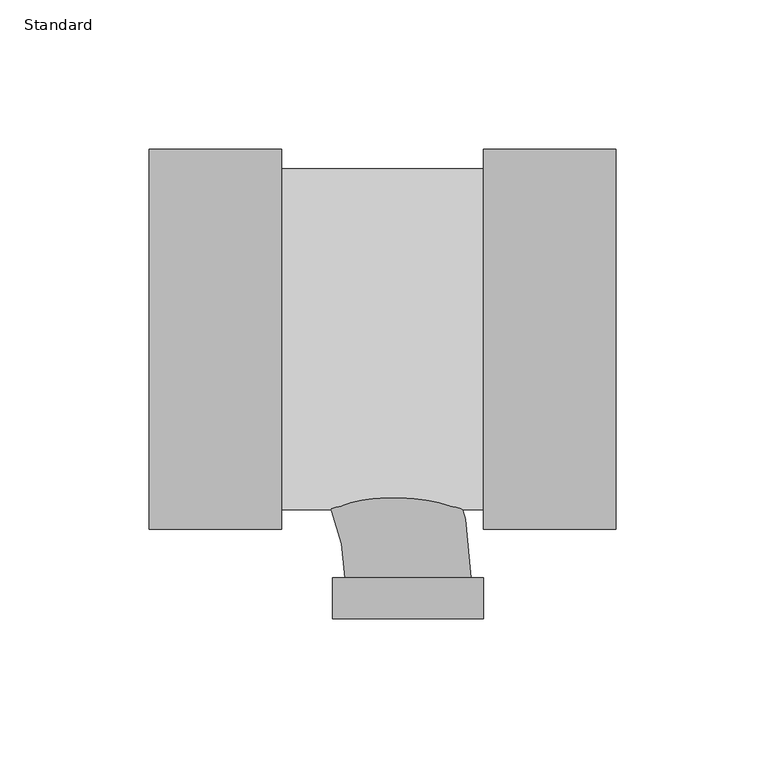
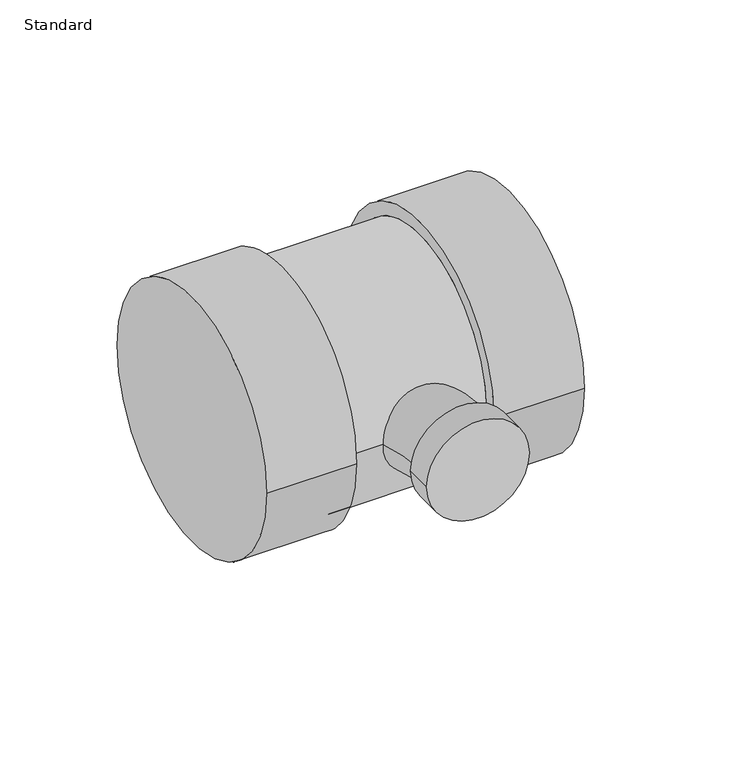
"""IFC4 building model written with IfcOpenShell, lengths in millimetres: pipe fitting geometry, EG-RCAN Té sanitaire de réduction - PVC - Nom. 40 - DWV : Standard."""

from ifc_helpers import new_model, si_unit, point, frame, origin, place, context, project, spatial, circle_curve, ellipse_curve, trimmed, source, transform, mapped, element, save
from ifc_brep_helpers import plane_surface, cylinder_surface, revolved_surface, advanced_brep


def standard_e98945bd(model_context):
    return source(origin(), model_context, "Body", "AdvancedBrep", [
        advanced_brep(
        [(25.265279, -63.754, 0.0), (25.265279, 63.754, 0.0), (25.265279, -57.15, 0.0), (25.265279, 57.15, 0.0), (69.715279, -63.754, 0.0), (69.715279, 63.754, 0.0), (-42.4599062, 57.15, 0.0), (-42.4599062, -57.15, 0.0), (-86.9099063, -63.754, 0.0), (-86.9099062, 63.754, 0.0), (-42.4599063, -63.754, 0.0), (-42.4599062, 63.754, 0.0)],
        [
            (0, 1, circle_curve(frame((25.265279, 0.0, 0.0), z_axis=(-1.0, 0.0, 0.0), x_axis=(0.0, 1.0, 0.0)), 63.754)),
            (1, 0, circle_curve(frame((25.265279, 0.0, 0.0), z_axis=(-1.0, 0.0, 0.0), x_axis=(0.0, 1.0, 0.0)), 63.754)),
            (2, 3, circle_curve(frame((25.265279, 0.0, 0.0), z_axis=(1.0, 0.0, 0.0), x_axis=(0.0, 0.0, -1.0)), 57.15)),
            (3, 2, circle_curve(frame((25.265279, 0.0, 0.0), z_axis=(1.0, 0.0, 0.0), x_axis=(0.0, 0.0, 1.0)), 57.15)),
            (4, 5, circle_curve(frame((69.715279, 0.0, 0.0), z_axis=(1.0, 0.0, 0.0), x_axis=(0.0, 1.0, 0.0)), 63.754)),
            (5, 4, circle_curve(frame((69.715279, 0.0, 0.0), z_axis=(1.0, 0.0, 0.0), x_axis=(0.0, 1.0, 0.0)), 63.754)),
            (0, 4),
            (5, 1),
            (6, 3),
            (2, 7),
            (7, 6, circle_curve(frame((-42.4599063, 0.0, 0.0), z_axis=(1.0, 0.0, 0.0), x_axis=(0.0, 0.0, -1.0)), 57.15)),
            (6, 7, circle_curve(frame((-42.4599062, 0.0, 0.0), z_axis=(1.0, 0.0, 0.0), x_axis=(0.0, 0.0, 1.0)), 57.15)),
            (8, 9, circle_curve(frame((-86.9099062, 0.0, 0.0), z_axis=(-1.0, 0.0, 0.0), x_axis=(0.0, 1.0, 0.0)), 63.754)),
            (9, 8, circle_curve(frame((-86.9099062, 0.0, 0.0), z_axis=(-1.0, 0.0, 0.0), x_axis=(0.0, 1.0, 0.0)), 63.754)),
            (10, 11, circle_curve(frame((-42.4599062, 0.0, 0.0), z_axis=(1.0, 0.0, 0.0), x_axis=(0.0, 1.0, 0.0)), 63.754)),
            (11, 10, circle_curve(frame((-42.4599062, 0.0, 0.0), z_axis=(1.0, 0.0, 0.0), x_axis=(0.0, 1.0, 0.0)), 63.754)),
            (8, 10),
            (11, 9),
        ],
        [
            plane_surface(frame((25.265279, 0.0, 0.0), z_axis=(-1.0, 0.0, 0.0), x_axis=(0.0, 0.0, 1.0))),
            plane_surface(frame((69.715279, 0.0, 0.0), z_axis=(1.0, 0.0, 0.0), x_axis=(0.0, 0.0, 1.0))),
            cylinder_surface(frame((25.265279, 0.0, 0.0), z_axis=(-1.0, 0.0, 0.0), x_axis=(0.0, 1.0, 0.0)), 63.754),
            cylinder_surface(frame((-42.4599062, 0.0, 0.0), z_axis=(1.0, 0.0, 0.0), x_axis=(0.0, 0.0, -1.0)), 57.15),
            cylinder_surface(frame((-42.4599062, 0.0, 0.0), z_axis=(1.0, 0.0, 0.0), x_axis=(0.0, 0.0, 1.0)), 57.15),
            plane_surface(frame((-86.9099062, 0.0, 0.0), z_axis=(-1.0, 0.0, 0.0), x_axis=(0.0, 0.0, 1.0))),
            plane_surface(frame((-42.4599062, 0.0, 0.0), z_axis=(1.0, 0.0, 0.0), x_axis=(0.0, 0.0, 1.0))),
            cylinder_surface(frame((-86.9099062, 0.0, 0.0), z_axis=(-1.0, 0.0, 0.0), x_axis=(0.0, 1.0, 0.0)), 63.754),
        ],
        [
            (0, [[1, 2], [3, 4]]),
            (1, [[5, 6]]),
            (2, [[-1, 7, -6, 8]]),
            (2, [[-2, -8, -5, -7]]),
            (3, [[9, -3, 10, 11]]),
            (4, [[-9, 12, -10, -4]]),
            (5, [[13, 14]]),
            (6, [[15, 16], [-11, -12]]),
            (7, [[-13, 17, -16, 18]]),
            (7, [[-14, -18, -15, -17]]),
        ],
    ),
        advanced_brep(
        [(-25.2689397, -80.0270783, 0.0), (25.265279, -80.0282341, 0.0), (21.2022321, -80.0281412, 0.0), (-21.2058929, -80.0271713, 0.0), (-25.269254, -93.7673908, 0.0), (25.2649647, -93.7685466, 0.0), (-80.0276562, -21.2040625, 0.0), (-80.0276562, 21.2040625, 0.0)],
        [
            (0, 1, circle_curve(frame((-0.0018304, -80.0276562, 0.0), z_axis=(2.2871702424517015e-05, 0.9999999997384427, 0.0), x_axis=(0.9999999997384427, -2.2871702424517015e-05, 0.0)), 25.2671094)),
            (1, 0, circle_curve(frame((-0.0018304, -80.0276562, 0.0), z_axis=(2.2871702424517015e-05, 0.9999999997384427, 0.0), x_axis=(0.9999999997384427, -2.2871702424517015e-05, 0.0)), 25.2671094)),
            (2, 3, circle_curve(frame((-0.0018304, -80.0276562, 0.0), z_axis=(-2.2871702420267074e-05, -0.9999999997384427, 0.0), x_axis=(0.9999999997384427, -2.2871702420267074e-05, 0.0)), 21.2040625)),
            (3, 2, circle_curve(frame((-0.0018304, -80.0276562, 0.0), z_axis=(-2.2871702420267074e-05, -0.9999999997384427, 0.0), x_axis=(0.9999999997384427, -2.2871702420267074e-05, 0.0)), 21.2040625)),
            (4, 5, circle_curve(frame((-0.0021446, -93.7679687, 0.0), z_axis=(-2.2871702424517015e-05, -0.9999999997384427, 0.0), x_axis=(0.9999999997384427, -2.2871702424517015e-05, 0.0)), 25.2671094)),
            (5, 4, circle_curve(frame((-0.0021446, -93.7679687, 0.0), z_axis=(-2.2871702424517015e-05, -0.9999999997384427, 0.0), x_axis=(0.9999999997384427, -2.2871702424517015e-05, 0.0)), 25.2671094)),
            (0, 4),
            (5, 1),
            (6, 7, circle_curve(frame((-80.0276562, 0.0, 0.0), z_axis=(-1.0, 0.0, 0.0), x_axis=(0.0, 1.0, 0.0)), 21.2040625)),
            (7, 6, circle_curve(frame((-80.0276562, 0.0, 0.0), z_axis=(-1.0, 0.0, 0.0), x_axis=(0.0, 1.0, 0.0)), 21.2040625)),
            (6, 3, circle_curve(frame((-80.0276562, -80.0258259, 0.0), z_axis=(0.0, 0.0, -1.0), x_axis=(0.0, 1.0, 0.0)), 58.8217634)),
            (2, 7, circle_curve(frame((-80.0276562, -80.0258259, 0.0), z_axis=(0.0, 0.0, 1.0), x_axis=(0.0, 1.0, 0.0)), 101.2298884)),
        ],
        [
            plane_surface(frame((-0.0018304, -80.0276562, 0.0), z_axis=(2.287170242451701e-05, 0.9999999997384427, 0.0), x_axis=(0.0, 0.0, 1.0))),
            plane_surface(frame((-0.0021446, -93.7679687, 0.0), z_axis=(-2.287170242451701e-05, -0.9999999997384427, 0.0), x_axis=(0.0, 0.0, 1.0))),
            cylinder_surface(frame((-0.0018304, -80.0276562, 0.0), z_axis=(2.2871702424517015e-05, 0.9999999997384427, 0.0), x_axis=(0.9999999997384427, -2.2871702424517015e-05, 0.0)), 25.2671094),
            plane_surface(frame((-80.0276562, 0.0, 0.0), z_axis=(-1.0, 0.0, 0.0), x_axis=(0.0, 0.0, 1.0))),
            revolved_surface(trimmed(ellipse_curve(frame((-80.0276562, 0.0, 0.0), z_axis=(-1.0, 0.0, 0.0), x_axis=(0.0, 1.0, 0.0)), 21.2040625, 21.2040625), [point((-80.0276562, -21.2040625, 0.0))], [point((-80.0276562, 21.2040625, 0.0))], True, "CARTESIAN"), (-80.0276562, -80.0258259, 0.0), (0.0, 0.0, -1.0)),
            revolved_surface(trimmed(ellipse_curve(frame((-80.0276562, 0.0, 0.0), z_axis=(-1.0, 0.0, 0.0), x_axis=(0.0, 1.0, 0.0)), 21.2040625, 21.2040625), [point((-80.0276562, 21.2040625, 0.0))], [point((-80.0276562, -21.2040625, 0.0))], True, "CARTESIAN"), (-80.0276562, -80.0258259, 0.0), (0.0, 0.0, -1.0)),
        ],
        [
            (0, [[1, 2], [3, 4]]),
            (1, [[5, 6]]),
            (2, [[-1, 7, -6, 8]]),
            (2, [[-2, -8, -5, -7]]),
            (3, [[9, 10]]),
            (4, [[-9, 11, -3, 12]]),
            (5, [[-10, -12, -4, -11]]),
        ],
    ),
    ])


if __name__ == "__main__":
    model = new_model("IFC4")
    model_context = context("Model", 3, world=origin())
    ifc_project = project(units=[si_unit("LENGTHUNIT", "METRE", prefix="MILLI")], contexts=[model_context])
    site = spatial("IfcSite", under=ifc_project)
    building = spatial("IfcBuilding", under=site)
    placement = place(None, origin())
    standard_shape = standard_e98945bd(model_context)
    element("IfcPipeFitting", 1, ObjectType="EG-RCAN Té sanitaire de réduction - PVC - Nom. 40 - DWV : Standard", at=placement, inside=building, context=model_context, shape_type="MappedRepresentation", body=[
        mapped(standard_shape, transform((0.0, 0.0, 0.0), x_axis=(1.0, 0.0, 0.0), y_axis=(0.0, 1.0, 0.0), z_axis=(0.0, 0.0, 1.0))),
    ])
    save(model, "model.ifc")
